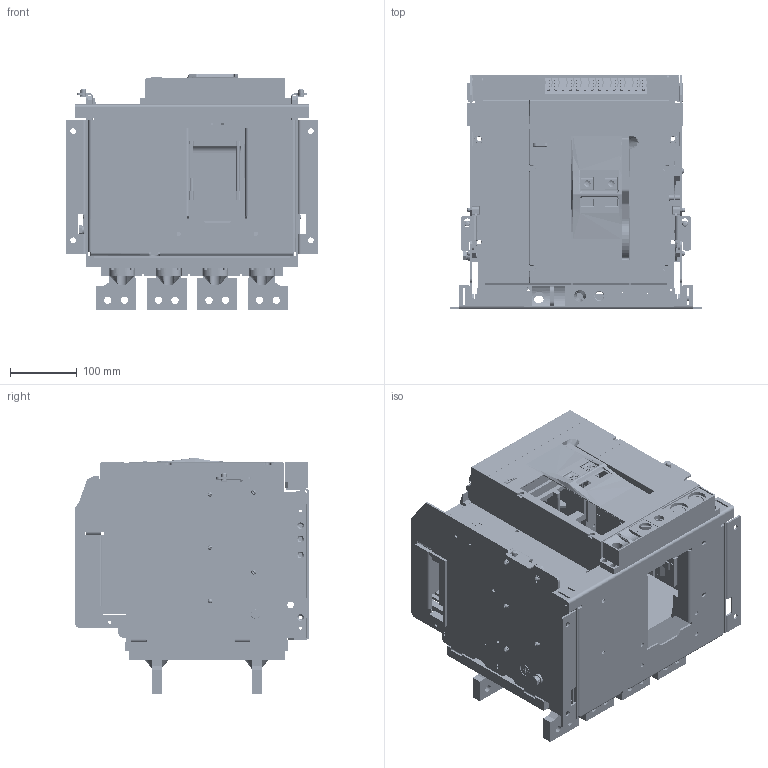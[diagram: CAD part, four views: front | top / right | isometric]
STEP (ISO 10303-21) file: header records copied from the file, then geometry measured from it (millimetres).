
FILE_DESCRIPTION((''),'2;1');
FILE_NAME('NA8G-1600-1250-DO-4P-H_ASM','2019-06-01T11:03:38',('lcc'),(''),'CREO PARAMETRIC BY PTC INC, 2018020','CREO PARAMETRIC BY PTC INC, 2018020','');
FILE_SCHEMA(('CONFIG_CONTROL_DESIGN','SHAPE_APPEARANCE_LAYERS_GROUPS'));
Products named in the file (52): 8-024-498; 8-300-164; 8-141-125; 8ZTD-860-349-2; 8-441-081; 5ZTD-024-170_ASM; 8-050-244; 8-960-058; 8-960-056; 8-960-057; 8-960-060; 8-960-059; 8-127-020; 8-125-057; 8-123-120; 8-261-001; 8-125-001; 8-210-176; 5-124-010_ASM; 8-233-301; GBT97_1-4; GBT93-4; GBT818-M4X10; GBT845-ST4_2X9_5C; GBT6170-M8; 5-050-095_ASM; 8-050-243; 8-261-002; 8-125-002; 5-124-011_ASM; GBT97_1-8; GBT93-8; GBT5783-M8X16; 5-050-096_ASM; 8-300-163; 8-015-020; 8ZTD-043-780; 8ZTD-043-781; 8-300-162-2; 8-005-238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
Assembly tree (104 placements, depth 4):
  NA8G-1600-1250-DO-4P-H_ASM
    5ZTD-024-170_ASM
      8-024-498
      8-300-164
      8-141-125
      8ZTD-860-349-2
      8-441-081
    5-050-095_ASM
      8-050-244
      8-960-058
      8-960-056
      8-960-057
      8-960-060
      8-960-059
      8-127-020
      8-125-057
      8-123-120
      5-124-010_ASM
        8-261-001
        8-125-001
        8-210-176
      8-233-301
      GBT97_1-4  x5
      GBT93-4  x5
      GBT818-M4X10  x5
      GBT845-ST4_2X9_5C
      GBT6170-M8  x2
    5-050-096_ASM
      8-050-243
      8-125-057
      8-123-120
      5-124-011_ASM
        8-261-002
        8-125-002
        8-210-176
      GBT6170-M8  x2
      GBT97_1-4  x5
      GBT93-4  x5
      GBT818-M4X10  x5
      GBT97_1-8  x2
      GBT93-8
      GBT5783-M8X16
    8-300-163
    8-015-020
    8ZTD-043-780
    8ZTD-043-781
    8-300-162-2
    8-005-238
    8-253-348
    8-253-349
    8-253-309
    5-235-147
    1600-DUANZI-CTS_ASM
      8ZTD-064-138
      8ZTD-024-689  x14
      8ZTD-860-511
    1600-DIJIA-4P
    8ZTD-580-187-1  x4
    8ZTD-580-188-1  x4
Bounding box: 378 x 351 x 355 mm (x, y, z)
Volume: 8422416.1 mm3; surface area: 2121264.7 mm2
Topology: 98 solids, 158 shells, 7724 faces, 21118 edges, 13885 vertices
Faces by surface type: plane 5737, cylinder 1728, cone 134, bspline 50, torus 42, sphere 32, extrusion 1
Entity records: 204271 total; most frequent: CARTESIAN_POINT 30188, ORIENTED_EDGE 27504, DIRECTION 26785, EDGE_CURVE 13763, PRESENTATION_STYLE_ASSIGNMENT 12917, STYLED_ITEM 12880, CURVE_STYLE 12216, VECTOR 10821
